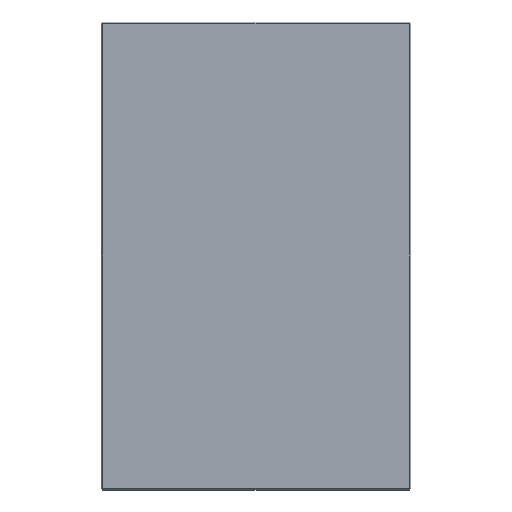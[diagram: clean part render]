
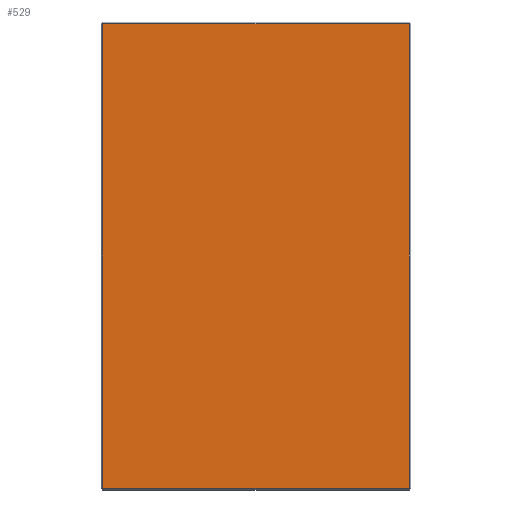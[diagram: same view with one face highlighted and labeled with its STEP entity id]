
A CAD part, front view. The second image highlights one B-rep face of the part: STEP entity #529.
In plain terms, the highlighted planar face has unit normal (0, -1, 0).
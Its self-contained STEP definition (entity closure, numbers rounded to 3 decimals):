
#24 = EDGE_CURVE ( 'NONE', #480, #117, #41, .T. ) ;
#41 = LINE ( 'NONE', #385, #144 ) ;
#43 = LINE ( 'NONE', #561, #381 ) ;
#67 = PLANE ( 'NONE',  #637 ) ;
#100 = CARTESIAN_POINT ( 'NONE',  ( -97., 0., -147. ) ) ;
#102 = LINE ( 'NONE', #393, #624 ) ;
#109 = DIRECTION ( 'NONE',  ( 0., 0., 1. ) ) ;
#113 = EDGE_CURVE ( 'NONE', #117, #479, #543, .T. ) ;
#117 = VERTEX_POINT ( 'NONE', #100 ) ;
#139 = ORIENTED_EDGE ( 'NONE', *, *, #24, .T. ) ;
#143 = CARTESIAN_POINT ( 'NONE',  ( 0., 0., -147. ) ) ;
#144 = VECTOR ( 'NONE', #549, 1000. ) ;
#174 = CARTESIAN_POINT ( 'NONE',  ( 97., 0., 147. ) ) ;
#204 = EDGE_LOOP ( 'NONE', ( #310, #525, #139, #299 ) ) ;
#206 = DIRECTION ( 'NONE',  ( -1., 0., 0. ) ) ;
#240 = DIRECTION ( 'NONE',  ( 1., 0., 0. ) ) ;
#261 = VECTOR ( 'NONE', #240, 1000. ) ;
#299 = ORIENTED_EDGE ( 'NONE', *, *, #113, .T. ) ;
#301 = CARTESIAN_POINT ( 'NONE',  ( 0., 0., 0. ) ) ;
#310 = ORIENTED_EDGE ( 'NONE', *, *, #470, .T. ) ;
#340 = VERTEX_POINT ( 'NONE', #174 ) ;
#346 = CARTESIAN_POINT ( 'NONE',  ( 97., 0., -147. ) ) ;
#381 = VECTOR ( 'NONE', #206, 1000. ) ;
#385 = CARTESIAN_POINT ( 'NONE',  ( -97., 0., 0. ) ) ;
#393 = CARTESIAN_POINT ( 'NONE',  ( 97., 0., 0. ) ) ;
#403 = DIRECTION ( 'NONE',  ( 0., 1., 0. ) ) ;
#470 = EDGE_CURVE ( 'NONE', #479, #340, #102, .T. ) ;
#479 = VERTEX_POINT ( 'NONE', #346 ) ;
#480 = VERTEX_POINT ( 'NONE', #506 ) ;
#506 = CARTESIAN_POINT ( 'NONE',  ( -97., 0., 147. ) ) ;
#525 = ORIENTED_EDGE ( 'NONE', *, *, #606, .T. ) ;
#529 = ADVANCED_FACE ( 'NONE', ( #592 ), #67, .F. ) ;
#543 = LINE ( 'NONE', #143, #261 ) ;
#549 = DIRECTION ( 'NONE',  ( 0., 0., -1. ) ) ;
#556 = DIRECTION ( 'NONE',  ( 0., 0., 1. ) ) ;
#561 = CARTESIAN_POINT ( 'NONE',  ( 0., 0., 147. ) ) ;
#592 = FACE_OUTER_BOUND ( 'NONE', #204, .T. ) ;
#606 = EDGE_CURVE ( 'NONE', #340, #480, #43, .T. ) ;
#624 = VECTOR ( 'NONE', #556, 1000. ) ;
#637 = AXIS2_PLACEMENT_3D ( 'NONE', #301, #403, #109 ) ;
